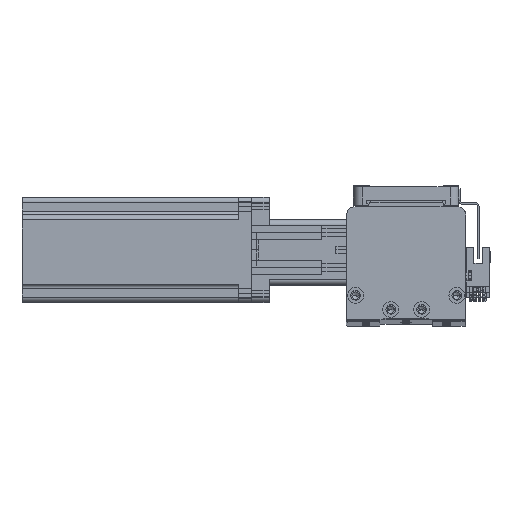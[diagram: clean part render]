
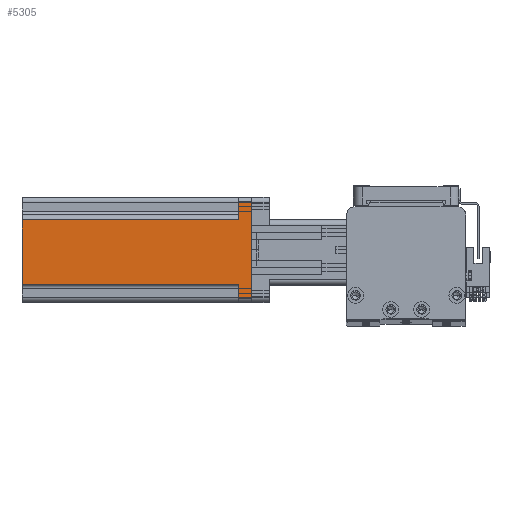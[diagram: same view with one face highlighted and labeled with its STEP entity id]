
A CAD part, top view. The second image highlights one B-rep face of the part: STEP entity #5305.
In plain terms, the highlighted planar face has unit normal (0, 0, 1) as drawn and (-1, 0, 0) by its records, which use the part's own axes.
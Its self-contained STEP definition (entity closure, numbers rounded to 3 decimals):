
#423 = ORIENTED_EDGE ( 'NONE', *, *, #45420, .T. ) ;
#913 = VECTOR ( 'NONE', #34788, 1000. ) ;
#1847 = CARTESIAN_POINT ( 'NONE',  ( -30., 30., 7.5 ) ) ;
#2349 = CARTESIAN_POINT ( 'NONE',  ( -30., -30., 130.7 ) ) ;
#3401 = CARTESIAN_POINT ( 'NONE',  ( -30., -30., 7.5 ) ) ;
#3532 = LINE ( 'NONE', #3401, #24980 ) ;
#5305 = ADVANCED_FACE ( 'NONE', ( #41910 ), #6238, .F. ) ;
#6238 = PLANE ( 'NONE',  #49149 ) ;
#6277 = DIRECTION ( 'NONE',  ( 0., -1., 0. ) ) ;
#6420 = DIRECTION ( 'NONE',  ( 0., 0., -1. ) ) ;
#6943 = EDGE_CURVE ( 'NONE', #14115, #50324, #39099, .T. ) ;
#9274 = EDGE_CURVE ( 'NONE', #35871, #36258, #3532, .T. ) ;
#10004 = ORIENTED_EDGE ( 'NONE', *, *, #35334, .T. ) ;
#12524 = EDGE_CURVE ( 'NONE', #51307, #18490, #20756, .T. ) ;
#12558 = VERTEX_POINT ( 'NONE', #50407 ) ;
#12886 = LINE ( 'NONE', #46708, #913 ) ;
#13064 = ORIENTED_EDGE ( 'NONE', *, *, #6943, .T. ) ;
#14115 = VERTEX_POINT ( 'NONE', #43726 ) ;
#14793 = EDGE_CURVE ( 'NONE', #12558, #36258, #34937, .T. ) ;
#15301 = LINE ( 'NONE', #46425, #26007 ) ;
#18490 = VERTEX_POINT ( 'NONE', #30898 ) ;
#18907 = LINE ( 'NONE', #34469, #29630 ) ;
#20480 = EDGE_LOOP ( 'NONE', ( #22646, #10004, #36434, #21941, #30724, #13064, #423, #40072 ) ) ;
#20756 = LINE ( 'NONE', #26154, #40924 ) ;
#21941 = ORIENTED_EDGE ( 'NONE', *, *, #12524, .F. ) ;
#22343 = DIRECTION ( 'NONE',  ( 0., 0., 1. ) ) ;
#22646 = ORIENTED_EDGE ( 'NONE', *, *, #9274, .F. ) ;
#22939 = VECTOR ( 'NONE', #40867, 1000. ) ;
#24980 = VECTOR ( 'NONE', #43517, 1000. ) ;
#25989 = CARTESIAN_POINT ( 'NONE',  ( -30., -17., 130.7 ) ) ;
#26007 = VECTOR ( 'NONE', #22343, 1000. ) ;
#26154 = CARTESIAN_POINT ( 'NONE',  ( -30., 20., 7.5 ) ) ;
#29630 = VECTOR ( 'NONE', #6277, 1000. ) ;
#30017 = DIRECTION ( 'NONE',  ( 0., 1., 0. ) ) ;
#30533 = DIRECTION ( 'NONE',  ( 1., 0., 0. ) ) ;
#30724 = ORIENTED_EDGE ( 'NONE', *, *, #35874, .T. ) ;
#30898 = CARTESIAN_POINT ( 'NONE',  ( -30., 20., 130.7 ) ) ;
#31066 = CARTESIAN_POINT ( 'NONE',  ( -30., 20., 7.5 ) ) ;
#34268 = DIRECTION ( 'NONE',  ( 0., 0., 1. ) ) ;
#34469 = CARTESIAN_POINT ( 'NONE',  ( -30., -30., 0. ) ) ;
#34661 = CARTESIAN_POINT ( 'NONE',  ( -30., 27., 130.7 ) ) ;
#34788 = DIRECTION ( 'NONE',  ( 0., -1., 0. ) ) ;
#34937 = LINE ( 'NONE', #48756, #22939 ) ;
#35334 = EDGE_CURVE ( 'NONE', #35871, #37535, #15301, .T. ) ;
#35871 = VERTEX_POINT ( 'NONE', #45843 ) ;
#35874 = EDGE_CURVE ( 'NONE', #51307, #14115, #47308, .T. ) ;
#36258 = VERTEX_POINT ( 'NONE', #40023 ) ;
#36434 = ORIENTED_EDGE ( 'NONE', *, *, #39638, .F. ) ;
#36621 = VECTOR ( 'NONE', #30017, 1000. ) ;
#37535 = VERTEX_POINT ( 'NONE', #25989 ) ;
#37844 = VECTOR ( 'NONE', #38702, 1000. ) ;
#38702 = DIRECTION ( 'NONE',  ( 0., 0., -1. ) ) ;
#39099 = LINE ( 'NONE', #34661, #37844 ) ;
#39638 = EDGE_CURVE ( 'NONE', #18490, #37535, #12886, .T. ) ;
#40023 = CARTESIAN_POINT ( 'NONE',  ( -30., -27., 7.5 ) ) ;
#40072 = ORIENTED_EDGE ( 'NONE', *, *, #14793, .T. ) ;
#40867 = DIRECTION ( 'NONE',  ( 0., 0., 1. ) ) ;
#40924 = VECTOR ( 'NONE', #34268, 1000. ) ;
#41910 = FACE_OUTER_BOUND ( 'NONE', #20480, .T. ) ;
#43517 = DIRECTION ( 'NONE',  ( 0., -1., 0. ) ) ;
#43726 = CARTESIAN_POINT ( 'NONE',  ( -30., 27., 7.5 ) ) ;
#45420 = EDGE_CURVE ( 'NONE', #50324, #12558, #18907, .T. ) ;
#45843 = CARTESIAN_POINT ( 'NONE',  ( -30., -17., 7.5 ) ) ;
#46425 = CARTESIAN_POINT ( 'NONE',  ( -30., -17., 130.7 ) ) ;
#46653 = CARTESIAN_POINT ( 'NONE',  ( -30., 27., 0. ) ) ;
#46708 = CARTESIAN_POINT ( 'NONE',  ( -30., -30., 130.7 ) ) ;
#47308 = LINE ( 'NONE', #1847, #36621 ) ;
#48756 = CARTESIAN_POINT ( 'NONE',  ( -30., -27., 130.7 ) ) ;
#49149 = AXIS2_PLACEMENT_3D ( 'NONE', #2349, #30533, #6420 ) ;
#50324 = VERTEX_POINT ( 'NONE', #46653 ) ;
#50407 = CARTESIAN_POINT ( 'NONE',  ( -30., -27., 0. ) ) ;
#51307 = VERTEX_POINT ( 'NONE', #31066 ) ;
